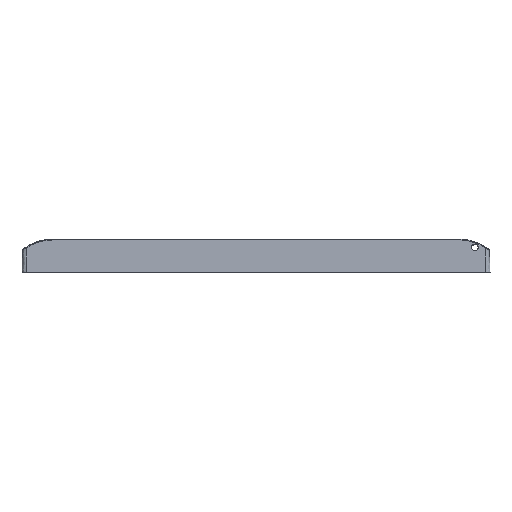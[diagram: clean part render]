
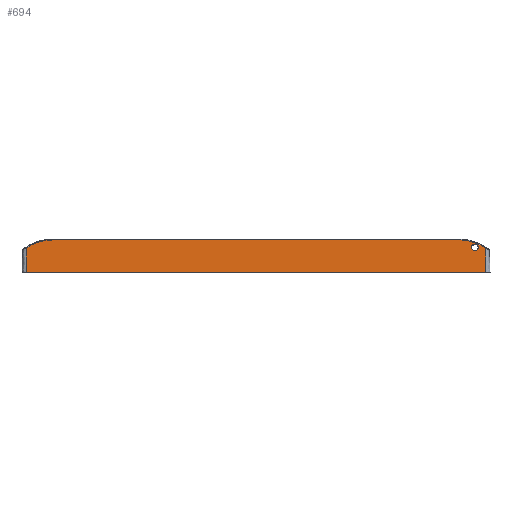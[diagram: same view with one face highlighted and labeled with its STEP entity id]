
A CAD part, top view. The second image highlights one B-rep face of the part: STEP entity #694.
In plain terms, the highlighted planar face has unit normal (0, 0.018, 1).
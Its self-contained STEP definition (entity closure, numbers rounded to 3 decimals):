
#131=FACE_BOUND('',#2179,.F.);
#214=PLANE('',#13427);
#694=ADVANCED_FACE('',(#131,#1431),#214,.T.);
#1431=FACE_OUTER_BOUND('',#2180,.F.);
#2179=EDGE_LOOP('',(#3183,#3184));
#2180=EDGE_LOOP('',(#3185,#3186,#3187,#3188,#3189,#3190));
#3183=ORIENTED_EDGE('',*,*,#10211,.F.);
#3184=ORIENTED_EDGE('',*,*,#10210,.F.);
#3185=ORIENTED_EDGE('',*,*,#10372,.F.);
#3186=ORIENTED_EDGE('',*,*,#10373,.F.);
#3187=ORIENTED_EDGE('',*,*,#10367,.T.);
#3188=ORIENTED_EDGE('',*,*,#10371,.T.);
#3189=ORIENTED_EDGE('',*,*,#10374,.F.);
#3190=ORIENTED_EDGE('',*,*,#10375,.F.);
#7025=LINE('',#19136,#8404);
#7029=LINE('',#19140,#8408);
#7030=LINE('',#19150,#8409);
#7031=LINE('',#19160,#8410);
#8404=VECTOR('',#14012,275.001);
#8408=VECTOR('',#14016,14.787);
#8409=VECTOR('',#14017,14.787);
#8410=VECTOR('',#14018,242.453);
#9744=B_SPLINE_CURVE_WITH_KNOTS('',3,(#17817,#17818,#17819,#17820,#17821,
#17822,#17823,#17824,#17825,#17826,#17827,#17828,#17829,#17830),.UNSPECIFIED.,
 .F.,.F.,(4,1,1,1,1,1,1,1,1,1,1,4),(0.,0.106,0.182,
0.273,0.364,0.455,0.545,
0.636,0.727,0.818,0.894,
1.),.UNSPECIFIED.);
#9745=B_SPLINE_CURVE_WITH_KNOTS('',3,(#17831,#17832,#17833,#17834,#17835,
#17836,#17837,#17838,#17839,#17840,#17841,#17842,#17843,#17844),.UNSPECIFIED.,
 .F.,.F.,(4,1,1,1,1,1,1,1,1,1,1,4),(0.,0.106,0.182,
0.273,0.364,0.455,0.545,
0.636,0.727,0.818,0.894,
1.),.UNSPECIFIED.);
#9840=B_SPLINE_CURVE_WITH_KNOTS('',3,(#19141,#19142,#19143,#19144,#19145,
#19146,#19147,#19148,#19149),.UNSPECIFIED.,.F.,.F.,(4,1,1,1,1,1,4),(0.,0.194,
0.333,0.5,0.667,0.806,
1.),.UNSPECIFIED.);
#9841=B_SPLINE_CURVE_WITH_KNOTS('',3,(#19151,#19152,#19153,#19154,#19155,
#19156,#19157,#19158,#19159),.UNSPECIFIED.,.F.,.F.,(4,1,1,1,1,1,4),(0.,0.194,
0.333,0.5,0.667,0.806,1.),
 .UNSPECIFIED.);
#10210=EDGE_CURVE('',#13304,#13303,#9744,.T.);
#10211=EDGE_CURVE('',#13303,#13304,#9745,.T.);
#10367=EDGE_CURVE('',#13184,#13183,#7025,.T.);
#10371=EDGE_CURVE('',#13183,#13178,#7029,.T.);
#10372=EDGE_CURVE('',#13177,#13176,#9840,.T.);
#10373=EDGE_CURVE('',#13184,#13177,#7030,.T.);
#10374=EDGE_CURVE('',#13175,#13178,#9841,.T.);
#10375=EDGE_CURVE('',#13176,#13175,#7031,.T.);
#13175=VERTEX_POINT('',#17453);
#13176=VERTEX_POINT('',#17454);
#13177=VERTEX_POINT('',#17455);
#13178=VERTEX_POINT('',#17456);
#13183=VERTEX_POINT('',#17461);
#13184=VERTEX_POINT('',#17462);
#13303=VERTEX_POINT('',#17581);
#13304=VERTEX_POINT('',#17582);
#13427=AXIS2_PLACEMENT_3D('',#52000,#15406,#15407);
#14012=DIRECTION('',(-1.,0.,0.));
#14016=DIRECTION('',(0.017,1.,-0.017));
#14017=DIRECTION('',(-0.017,1.,-0.017));
#14018=DIRECTION('',(-1.,0.,0.));
#15406=DIRECTION('',(0.,0.017,1.));
#15407=DIRECTION('',(1.,0.,0.));
#17453=CARTESIAN_POINT('',(-121.227,19.509,84.659));
#17454=CARTESIAN_POINT('',(121.227,19.509,84.659));
#17455=CARTESIAN_POINT('',(137.242,14.783,84.742));
#17456=CARTESIAN_POINT('',(-137.242,14.783,84.742));
#17461=CARTESIAN_POINT('',(-137.5,0.,85.));
#17462=CARTESIAN_POINT('',(137.5,0.,85.));
#17581=CARTESIAN_POINT('',(130.647,16.969,84.704));
#17582=CARTESIAN_POINT('',(131.353,13.031,84.773));
#17817=CARTESIAN_POINT('',(131.353,13.031,84.773));
#17818=CARTESIAN_POINT('',(131.134,12.992,84.773));
#17819=CARTESIAN_POINT('',(130.749,12.988,84.773));
#17820=CARTESIAN_POINT('',(130.194,13.144,84.771));
#17821=CARTESIAN_POINT('',(129.726,13.423,84.766));
#17822=CARTESIAN_POINT('',(129.333,13.846,84.758));
#17823=CARTESIAN_POINT('',(129.076,14.362,84.749));
#17824=CARTESIAN_POINT('',(128.974,14.93,84.739));
#17825=CARTESIAN_POINT('',(129.036,15.504,84.729));
#17826=CARTESIAN_POINT('',(129.258,16.036,84.72));
#17827=CARTESIAN_POINT('',(129.6,16.46,84.713));
#17828=CARTESIAN_POINT('',(130.066,16.8,84.707));
#17829=CARTESIAN_POINT('',(130.428,16.929,84.704));
#17830=CARTESIAN_POINT('',(130.647,16.969,84.704));
#17831=CARTESIAN_POINT('',(130.647,16.969,84.704));
#17832=CARTESIAN_POINT('',(130.866,17.008,84.703));
#17833=CARTESIAN_POINT('',(131.251,17.012,84.703));
#17834=CARTESIAN_POINT('',(131.806,16.856,84.706));
#17835=CARTESIAN_POINT('',(132.274,16.577,84.711));
#17836=CARTESIAN_POINT('',(132.667,16.154,84.718));
#17837=CARTESIAN_POINT('',(132.924,15.638,84.727));
#17838=CARTESIAN_POINT('',(133.026,15.07,84.737));
#17839=CARTESIAN_POINT('',(132.964,14.496,84.747));
#17840=CARTESIAN_POINT('',(132.742,13.964,84.756));
#17841=CARTESIAN_POINT('',(132.4,13.54,84.764));
#17842=CARTESIAN_POINT('',(131.934,13.2,84.77));
#17843=CARTESIAN_POINT('',(131.572,13.071,84.772));
#17844=CARTESIAN_POINT('',(131.353,13.031,84.773));
#19136=CARTESIAN_POINT('',(137.5,0.,85.));
#19140=CARTESIAN_POINT('',(-137.5,0.,85.));
#19141=CARTESIAN_POINT('',(137.242,14.783,84.742));
#19142=CARTESIAN_POINT('',(136.321,15.378,84.732));
#19143=CARTESIAN_POINT('',(134.685,16.311,84.715));
#19144=CARTESIAN_POINT('',(132.109,17.469,84.695));
#19145=CARTESIAN_POINT('',(129.589,18.346,84.68));
#19146=CARTESIAN_POINT('',(126.997,18.978,84.669));
#19147=CARTESIAN_POINT('',(124.204,19.404,84.661));
#19148=CARTESIAN_POINT('',(122.324,19.509,84.659));
#19149=CARTESIAN_POINT('',(121.227,19.509,84.659));
#19150=CARTESIAN_POINT('',(137.5,0.,85.));
#19151=CARTESIAN_POINT('',(-121.227,19.509,84.659));
#19152=CARTESIAN_POINT('',(-122.324,19.509,84.659));
#19153=CARTESIAN_POINT('',(-124.204,19.404,84.661));
#19154=CARTESIAN_POINT('',(-126.997,18.978,84.669));
#19155=CARTESIAN_POINT('',(-129.589,18.346,84.68));
#19156=CARTESIAN_POINT('',(-132.109,17.469,84.695));
#19157=CARTESIAN_POINT('',(-134.685,16.311,84.715));
#19158=CARTESIAN_POINT('',(-136.321,15.378,84.732));
#19159=CARTESIAN_POINT('',(-137.242,14.783,84.742));
#19160=CARTESIAN_POINT('',(121.227,19.509,84.659));
#52000=CARTESIAN_POINT('',(-151.25,-13.748,85.24));
